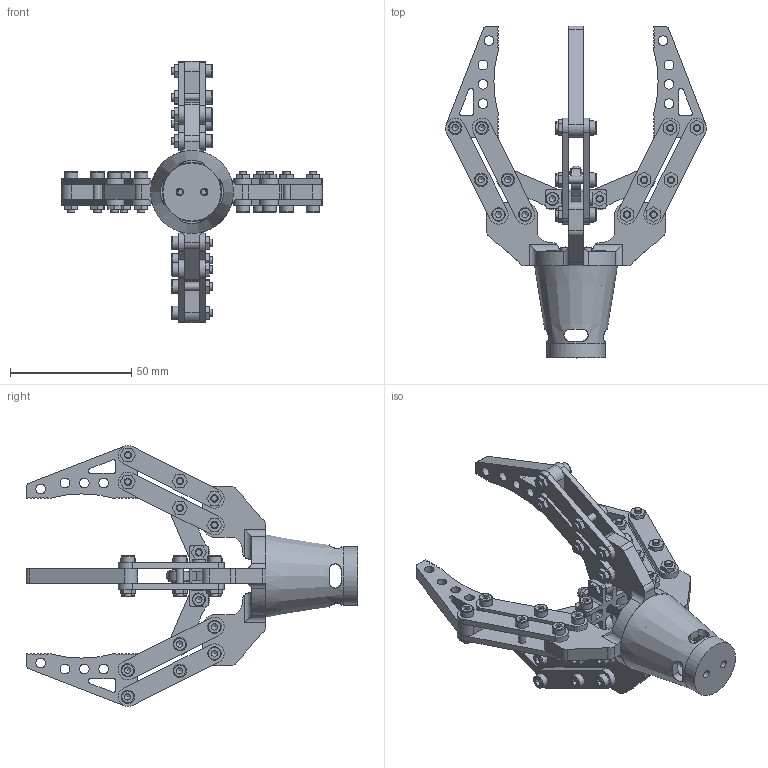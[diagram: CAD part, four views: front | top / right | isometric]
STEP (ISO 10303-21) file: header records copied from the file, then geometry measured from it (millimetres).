
FILE_DESCRIPTION(/* description */ (''),/* implementation_level */ '2;1');
FILE_NAME(/* name */ 'artiglio4.stp',/* time_stamp */ '2026-01-04T10:46:01+01:00',/* author */ ('R5800u'),/* organization */ (''),/* preprocessor_version */ 'ST-DEVELOPER v20',/* originating_system */ 'Autodesk Inventor 2025',/* authorisation */ '');
FILE_SCHEMA (('AUTOMOTIVE_DESIGN { 1 0 10303 214 3 1 1 }'));
Length unit declared in the file: millimetre
Products named in the file (14): gripper4; nut M3; base_gripper2; motor; UN 5721 - M3; base_motore; AS 1420 - 1973 - M3 x 10; chuck; link2; link; AS 1420 - 1973 - M3 x 14; BS 4168 - M2,5 x 12; BS 4168 - M2 x 10; AS 1474 - M3
Assembly tree (95 placements, depth 2):
  gripper4
    nut M3
    base_gripper2
    motor
    AS 1474 - M3  x32
    UN 5721 - M3
    base_motore
    AS 1420 - 1973 - M3 x 10  x4
    chuck  x4
    link  x16
    link2  x4
    AS 1420 - 1973 - M3 x 14  x24
    BS 4168 - M2,5 x 12  x4
    BS 4168 - M2 x 10  x2
Bounding box: 107.78 x 136.97 x 107.78 mm (x, y, z)
Volume: 68497 mm3; surface area: 58767.1 mm2
Topology: 95 solids, 95 shells, 1893 faces, 4823 edges, 3164 vertices
Faces by surface type: plane 1017, cylinder 485, cone 309, torus 75, bspline 6, sphere 1
Full cylindrical faces by diameter (mm): 0.6 x2, 1.5 x6, 2 x2, 2.459 x33, 2.5 x4, 2.7 x8, 3 x111, 3.2 x82, 3.4 x1, 3.8 x2, 4 x18, 4.5 x4, 4.6 x4, 5 x2, 5.5 x28, 20 x1, 24 x1
Entity records: 25655 total; most frequent: CARTESIAN_POINT 5154, DIRECTION 4378, ORIENTED_EDGE 3904, EDGE_CURVE 1952, AXIS2_PLACEMENT_3D 1688, VERTEX_POINT 1266, LINE 1002, VECTOR 1002
